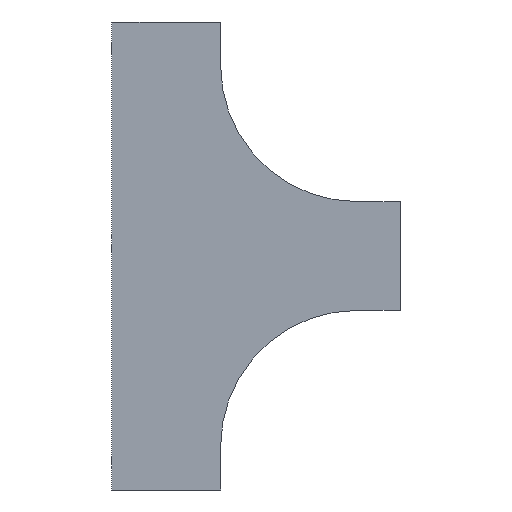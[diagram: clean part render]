
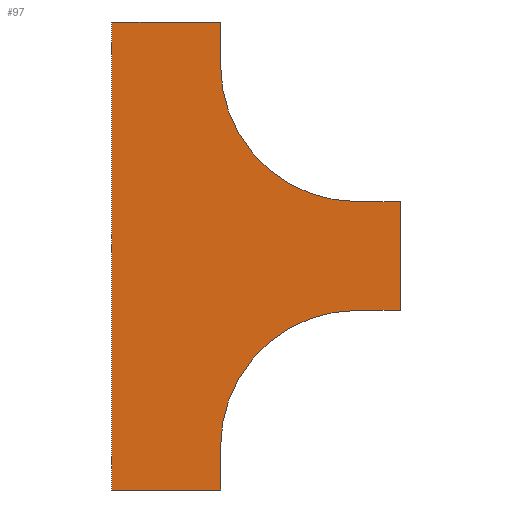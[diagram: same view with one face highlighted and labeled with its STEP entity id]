
A CAD part, front view. The second image highlights one B-rep face of the part: STEP entity #97.
In plain terms, the highlighted planar face has unit normal (0, -1, 0).
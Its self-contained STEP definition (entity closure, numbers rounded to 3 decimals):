
#19 = DIRECTION ( 'NONE',  ( 0., 0., -1. ) ) ;
#45 = VECTOR ( 'NONE', #1381, 1000. ) ;
#49 = CARTESIAN_POINT ( 'NONE',  ( -225., 0., -390. ) ) ;
#68 = CARTESIAN_POINT ( 'NONE',  ( -125., 0., -390. ) ) ;
#69 = VERTEX_POINT ( 'NONE', #362 ) ;
#97 = ADVANCED_FACE ( 'NONE', ( #1805 ), #188, .T. ) ;
#140 = DIRECTION ( 'NONE',  ( 1., 0., 0. ) ) ;
#162 = CARTESIAN_POINT ( 'NONE',  ( -225., 0., 40. ) ) ;
#169 = DIRECTION ( 'NONE',  ( 0., -1., 0. ) ) ;
#188 = PLANE ( 'NONE',  #661 ) ;
#226 = VECTOR ( 'NONE', #2125, 1000. ) ;
#243 = EDGE_CURVE ( 'NONE', #473, #557, #432, .T. ) ;
#287 = CARTESIAN_POINT ( 'NONE',  ( -225., 0., -390. ) ) ;
#352 = AXIS2_PLACEMENT_3D ( 'NONE', #1414, #169, #1952 ) ;
#362 = CARTESIAN_POINT ( 'NONE',  ( -125., 0., 40. ) ) ;
#369 = CARTESIAN_POINT ( 'NONE',  ( -125., 0., 40. ) ) ;
#377 = CARTESIAN_POINT ( 'NONE',  ( 0., 0., -350. ) ) ;
#379 = DIRECTION ( 'NONE',  ( 0., 0., -1. ) ) ;
#411 = ORIENTED_EDGE ( 'NONE', *, *, #2173, .F. ) ;
#428 = ORIENTED_EDGE ( 'NONE', *, *, #243, .F. ) ;
#432 = CIRCLE ( 'NONE', #1265, 125. ) ;
#458 = VECTOR ( 'NONE', #1046, 1000. ) ;
#473 = VERTEX_POINT ( 'NONE', #1023 ) ;
#529 = DIRECTION ( 'NONE',  ( 0., 0., 1. ) ) ;
#532 = DIRECTION ( 'NONE',  ( 0., -1., 0. ) ) ;
#557 = VERTEX_POINT ( 'NONE', #2151 ) ;
#627 = CARTESIAN_POINT ( 'NONE',  ( 40., 0., -225. ) ) ;
#644 = VERTEX_POINT ( 'NONE', #2338 ) ;
#661 = AXIS2_PLACEMENT_3D ( 'NONE', #909, #532, #1278 ) ;
#664 = CARTESIAN_POINT ( 'NONE',  ( -225., 0., -390. ) ) ;
#707 = LINE ( 'NONE', #162, #226 ) ;
#721 = VECTOR ( 'NONE', #379, 1000. ) ;
#752 = VERTEX_POINT ( 'NONE', #1211 ) ;
#801 = CIRCLE ( 'NONE', #352, 125. ) ;
#821 = CARTESIAN_POINT ( 'NONE',  ( 40., 0., -125. ) ) ;
#834 = LINE ( 'NONE', #821, #45 ) ;
#857 = LINE ( 'NONE', #664, #458 ) ;
#862 = LINE ( 'NONE', #1574, #1221 ) ;
#909 = CARTESIAN_POINT ( 'NONE',  ( 0., 0., 0. ) ) ;
#922 = LINE ( 'NONE', #1641, #1708 ) ;
#928 = ORIENTED_EDGE ( 'NONE', *, *, #1122, .F. ) ;
#982 = EDGE_LOOP ( 'NONE', ( #1809, #2096, #1861, #1031, #428, #2124, #1110, #411, #928, #1724 ) ) ;
#988 = VECTOR ( 'NONE', #140, 1000. ) ;
#1014 = LINE ( 'NONE', #287, #2323 ) ;
#1023 = CARTESIAN_POINT ( 'NONE',  ( 0., 0., -225. ) ) ;
#1026 = CARTESIAN_POINT ( 'NONE',  ( -225., 0., 40. ) ) ;
#1031 = ORIENTED_EDGE ( 'NONE', *, *, #1078, .F. ) ;
#1046 = DIRECTION ( 'NONE',  ( 0., 0., 1. ) ) ;
#1054 = CARTESIAN_POINT ( 'NONE',  ( -125., 0., 0. ) ) ;
#1078 = EDGE_CURVE ( 'NONE', #557, #2334, #922, .T. ) ;
#1110 = ORIENTED_EDGE ( 'NONE', *, *, #1638, .F. ) ;
#1114 = EDGE_CURVE ( 'NONE', #2046, #473, #862, .T. ) ;
#1122 = EDGE_CURVE ( 'NONE', #2232, #644, #801, .T. ) ;
#1211 = CARTESIAN_POINT ( 'NONE',  ( 40., 0., -125. ) ) ;
#1221 = VECTOR ( 'NONE', #1788, 1000. ) ;
#1265 = AXIS2_PLACEMENT_3D ( 'NONE', #377, #2183, #529 ) ;
#1278 = DIRECTION ( 'NONE',  ( 0., 0., -1. ) ) ;
#1355 = EDGE_CURVE ( 'NONE', #2334, #2290, #1014, .T. ) ;
#1381 = DIRECTION ( 'NONE',  ( 0., 0., -1. ) ) ;
#1414 = CARTESIAN_POINT ( 'NONE',  ( 0., 0., 0. ) ) ;
#1504 = DIRECTION ( 'NONE',  ( -1., 0., 0. ) ) ;
#1574 = CARTESIAN_POINT ( 'NONE',  ( 0., 0., -225. ) ) ;
#1578 = CARTESIAN_POINT ( 'NONE',  ( 0., 0., -125. ) ) ;
#1638 = EDGE_CURVE ( 'NONE', #752, #2046, #834, .T. ) ;
#1641 = CARTESIAN_POINT ( 'NONE',  ( -125., 0., -390. ) ) ;
#1708 = VECTOR ( 'NONE', #19, 1000. ) ;
#1724 = ORIENTED_EDGE ( 'NONE', *, *, #1947, .F. ) ;
#1780 = LINE ( 'NONE', #1578, #988 ) ;
#1788 = DIRECTION ( 'NONE',  ( -1., 0., 0. ) ) ;
#1805 = FACE_OUTER_BOUND ( 'NONE', #982, .T. ) ;
#1809 = ORIENTED_EDGE ( 'NONE', *, *, #2153, .F. ) ;
#1861 = ORIENTED_EDGE ( 'NONE', *, *, #1355, .F. ) ;
#1947 = EDGE_CURVE ( 'NONE', #69, #2232, #1985, .T. ) ;
#1952 = DIRECTION ( 'NONE',  ( 0., 0., -1. ) ) ;
#1985 = LINE ( 'NONE', #369, #721 ) ;
#2034 = VERTEX_POINT ( 'NONE', #1026 ) ;
#2046 = VERTEX_POINT ( 'NONE', #627 ) ;
#2096 = ORIENTED_EDGE ( 'NONE', *, *, #2166, .F. ) ;
#2124 = ORIENTED_EDGE ( 'NONE', *, *, #1114, .F. ) ;
#2125 = DIRECTION ( 'NONE',  ( 1., 0., 0. ) ) ;
#2151 = CARTESIAN_POINT ( 'NONE',  ( -125., 0., -350. ) ) ;
#2153 = EDGE_CURVE ( 'NONE', #2034, #69, #707, .T. ) ;
#2166 = EDGE_CURVE ( 'NONE', #2290, #2034, #857, .T. ) ;
#2173 = EDGE_CURVE ( 'NONE', #644, #752, #1780, .T. ) ;
#2183 = DIRECTION ( 'NONE',  ( 0., -1., 0. ) ) ;
#2232 = VERTEX_POINT ( 'NONE', #1054 ) ;
#2290 = VERTEX_POINT ( 'NONE', #49 ) ;
#2323 = VECTOR ( 'NONE', #1504, 1000. ) ;
#2334 = VERTEX_POINT ( 'NONE', #68 ) ;
#2338 = CARTESIAN_POINT ( 'NONE',  ( 0., 0., -125. ) ) ;
